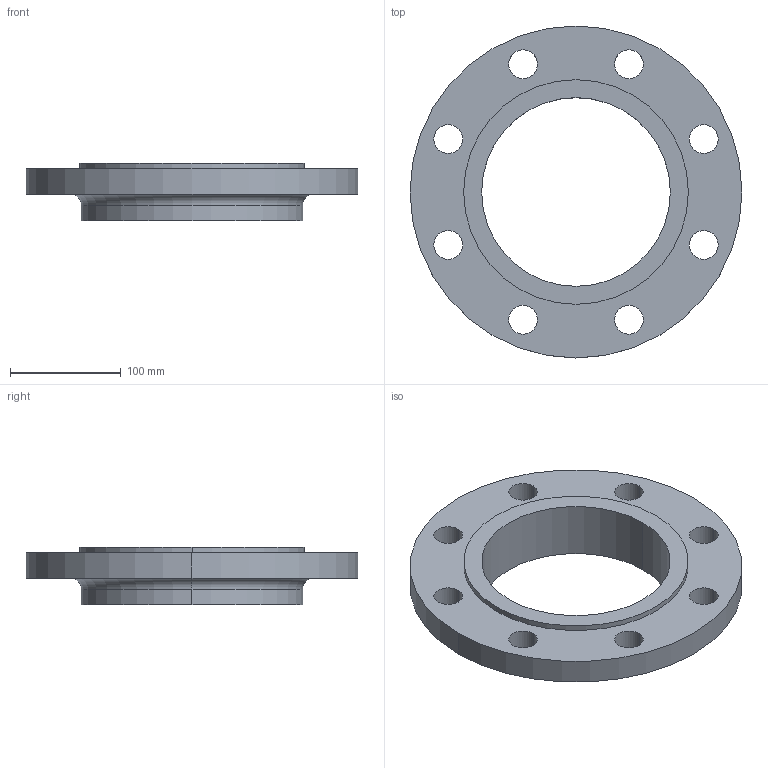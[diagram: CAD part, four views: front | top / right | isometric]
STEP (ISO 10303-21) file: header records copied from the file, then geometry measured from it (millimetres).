
FILE_DESCRIPTION (( 'STEP AP214' ), '1' );
FILE_NAME ('PN40 DN150 Type 12 - Type E Face.STEP', '2019-01-04T21:59:49', ( '' ), ( '' ), 'SwSTEP 2.0', 'SolidWorks 2019', '' );
FILE_SCHEMA (( 'AUTOMOTIVE_DESIGN' ));
Length unit declared in the file: millimetre
Products named in the file (1): PN40 DN150 Type 12 - Type E Face
Bounding box: 300 x 300 x 52 mm (x, y, z)
Volume: 1270428.4 mm3; surface area: 167389.2 mm2
Topology: 1 solids, 1 shells, 30 faces, 76 edges, 50 vertices
Faces by surface type: cylinder 24, plane 4, torus 2
Entity records: 1006 total; most frequent: DIRECTION 190, CARTESIAN_POINT 157, ORIENTED_EDGE 152, AXIS2_PLACEMENT_3D 83, EDGE_CURVE 76, CIRCLE 52, EDGE_LOOP 50, VERTEX_POINT 50
